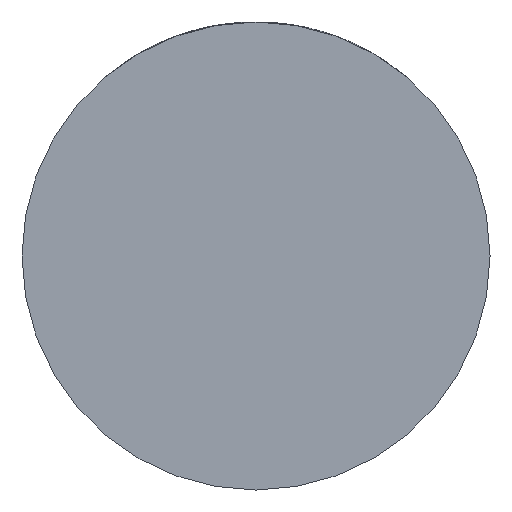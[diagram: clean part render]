
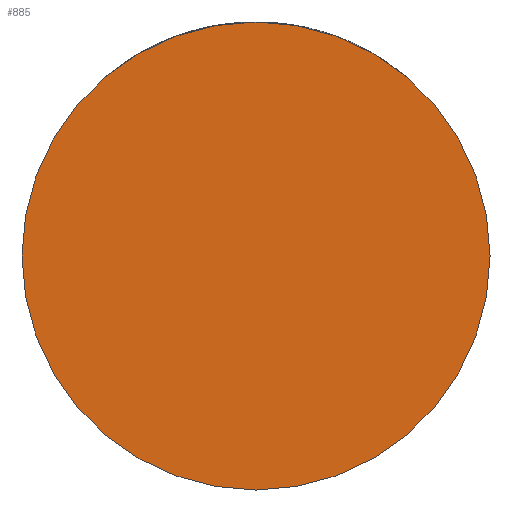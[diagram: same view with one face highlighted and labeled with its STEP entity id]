
A CAD part, front view. The second image highlights one B-rep face of the part: STEP entity #885.
In plain terms, the highlighted planar face has unit normal (0, -1, 0).
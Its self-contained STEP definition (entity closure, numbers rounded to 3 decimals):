
#246 = VERTEX_POINT ( 'NONE', #4040 ) ;
#293 = ORIENTED_EDGE ( 'NONE', *, *, #622, .T. ) ;
#622 = EDGE_CURVE ( 'NONE', #246, #3275, #1410, .T. ) ;
#885 = ADVANCED_FACE ( 'NONE', ( #2759 ), #1804, .T. ) ;
#940 = CIRCLE ( 'NONE', #1220, 32. ) ;
#1048 = CARTESIAN_POINT ( 'NONE',  ( 0., -27., 0. ) ) ;
#1080 = CARTESIAN_POINT ( 'NONE',  ( 0., -27., 0. ) ) ;
#1086 = DIRECTION ( 'NONE',  ( 0., -1., 0. ) ) ;
#1220 = AXIS2_PLACEMENT_3D ( 'NONE', #2713, #4056, #1265 ) ;
#1265 = DIRECTION ( 'NONE',  ( 1., 0., 0. ) ) ;
#1410 = CIRCLE ( 'NONE', #2846, 32. ) ;
#1435 = CARTESIAN_POINT ( 'NONE',  ( 32., -27., 0. ) ) ;
#1804 = PLANE ( 'NONE',  #2960 ) ;
#2318 = ORIENTED_EDGE ( 'NONE', *, *, #2826, .T. ) ;
#2340 = EDGE_LOOP ( 'NONE', ( #293, #2318 ) ) ;
#2713 = CARTESIAN_POINT ( 'NONE',  ( 0., -27., 0. ) ) ;
#2759 = FACE_OUTER_BOUND ( 'NONE', #2340, .T. ) ;
#2826 = EDGE_CURVE ( 'NONE', #3275, #246, #940, .T. ) ;
#2846 = AXIS2_PLACEMENT_3D ( 'NONE', #1048, #1086, #3454 ) ;
#2960 = AXIS2_PLACEMENT_3D ( 'NONE', #1080, #3844, #3160 ) ;
#3160 = DIRECTION ( 'NONE',  ( 1., 0., 0. ) ) ;
#3275 = VERTEX_POINT ( 'NONE', #1435 ) ;
#3454 = DIRECTION ( 'NONE',  ( 1., 0., 0. ) ) ;
#3844 = DIRECTION ( 'NONE',  ( 0., -1., 0. ) ) ;
#4040 = CARTESIAN_POINT ( 'NONE',  ( -32., -27., 0. ) ) ;
#4056 = DIRECTION ( 'NONE',  ( 0., -1., 0. ) ) ;
